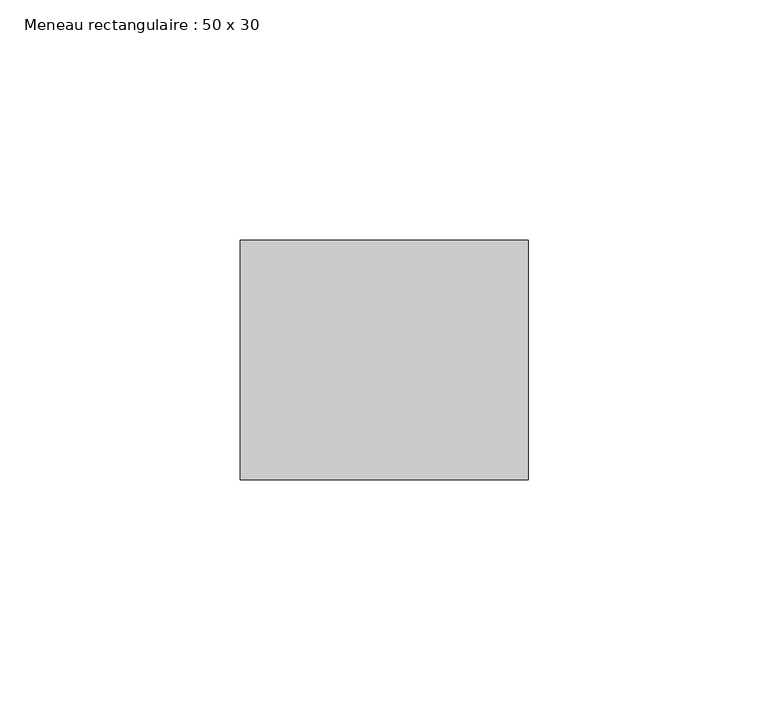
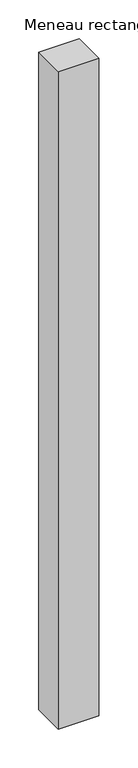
"""IFC4 building model written with IfcOpenShell, lengths in millimetres: member geometry, Meneau rectangulaire : 50 x 30."""

from ifc_helpers import new_model, si_unit, frame, origin, place, context, project, spatial, polyline, outline, extrude, source, transform, mapped, element, save


def meneau_rectangulaire_50_x_30_c9d44afa(model_context):
    return source(origin(), model_context, "Body", "SweptSolid", [
        extrude(outline(polyline([(0.0, 0.0), (0.0, -50.0), (-60.0, -50.0), (-60.0, 0.0), (0.0, 0.0)])), frame((0.0, 0.0, -1033.1760148), z_axis=(0.0, 0.0, 1.0), x_axis=(1.0, 0.0, 0.0)), (0.0, 0.0, 1.0), 1033.1760148),
    ])


if __name__ == "__main__":
    model = new_model("IFC4")
    model_context = context("Model", 3, world=origin())
    ifc_project = project(units=[si_unit("LENGTHUNIT", "METRE", prefix="MILLI")], contexts=[model_context])
    site = spatial("IfcSite", under=ifc_project)
    building = spatial("IfcBuilding", under=site)
    placement = place(None, origin())
    meneau_rectangulaire_50_x_30_shape = meneau_rectangulaire_50_x_30_c9d44afa(model_context)
    element("IfcMember", 1, ObjectType="Meneau rectangulaire : 50 x 30", at=placement, inside=building, context=model_context, shape_type="MappedRepresentation", body=[
        mapped(meneau_rectangulaire_50_x_30_shape, transform((0.0, 0.0, 0.0), x_axis=(1.0, 0.0, 0.0), y_axis=(0.0, 1.0, 0.0), z_axis=(0.0, 0.0, 1.0))),
    ])
    save(model, "model.ifc")
